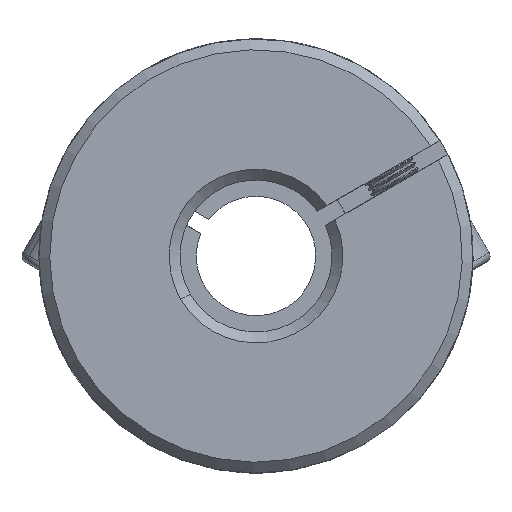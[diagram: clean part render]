
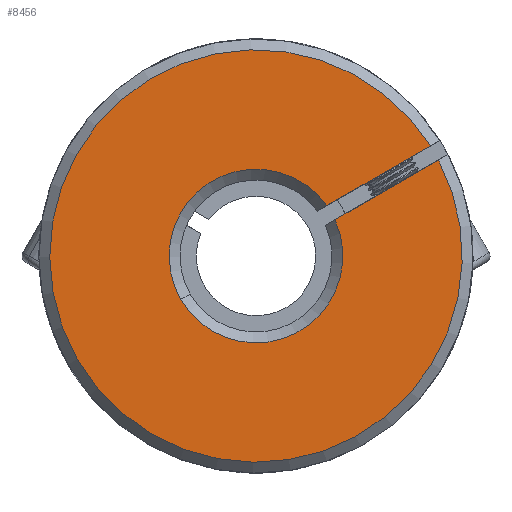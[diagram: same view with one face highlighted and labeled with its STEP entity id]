
A CAD part, front view. The second image highlights one B-rep face of the part: STEP entity #8456.
In plain terms, the highlighted planar face has unit normal (0, -1, 0).
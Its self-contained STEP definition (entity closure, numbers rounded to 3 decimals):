
#648 = CARTESIAN_POINT ( 'NONE',  ( -8.374, -31.239, 35.998 ) ) ;
#720 = EDGE_CURVE ( 'NONE', #12238, #4456, #13005, .T. ) ;
#1067 = CARTESIAN_POINT ( 'NONE',  ( -1.447, -31.239, 40. ) ) ;
#1151 = ORIENTED_EDGE ( 'NONE', *, *, #11982, .T. ) ;
#1620 = DIRECTION ( 'NONE',  ( 0.866, 0., 0.5 ) ) ;
#1926 = AXIS2_PLACEMENT_3D ( 'NONE', #8515, #9511, #2065 ) ;
#2065 = DIRECTION ( 'NONE',  ( 0.5, 0., -0.866 ) ) ;
#2352 = VERTEX_POINT ( 'NONE', #10634 ) ;
#2353 = ORIENTED_EDGE ( 'NONE', *, *, #12939, .F. ) ;
#2458 = EDGE_CURVE ( 'NONE', #10676, #12238, #7574, .T. ) ;
#3053 = DIRECTION ( 'NONE',  ( 0., 1., 0. ) ) ;
#4014 = CARTESIAN_POINT ( 'NONE',  ( 5.825, -31.239, 43.335 ) ) ;
#4293 = CARTESIAN_POINT ( 'NONE',  ( 15.367, -31.239, 48.848 ) ) ;
#4456 = VERTEX_POINT ( 'NONE', #4562 ) ;
#4562 = CARTESIAN_POINT ( 'NONE',  ( 5.074, -31.239, 44.634 ) ) ;
#4729 = CARTESIAN_POINT ( 'NONE',  ( 4.954, -31.239, 42.832 ) ) ;
#4896 = ORIENTED_EDGE ( 'NONE', *, *, #720, .T. ) ;
#5256 = DIRECTION ( 'NONE',  ( 0., -1., 0. ) ) ;
#5328 = CARTESIAN_POINT ( 'NONE',  ( -1.447, -31.239, 40. ) ) ;
#5469 = DIRECTION ( 'NONE',  ( 0.5, 0., -0.866 ) ) ;
#6811 = VECTOR ( 'NONE', #9083, 1000. ) ;
#7111 = FACE_OUTER_BOUND ( 'NONE', #8476, .T. ) ;
#7220 = CIRCLE ( 'NONE', #9389, 19. ) ;
#7406 = ORIENTED_EDGE ( 'NONE', *, *, #2458, .T. ) ;
#7574 = CIRCLE ( 'NONE', #11096, 8. ) ;
#8006 = EDGE_CURVE ( 'NONE', #10676, #9234, #13019, .T. ) ;
#8344 = ORIENTED_EDGE ( 'NONE', *, *, #8006, .F. ) ;
#8377 = PLANE ( 'NONE',  #1926 ) ;
#8456 = ADVANCED_FACE ( 'NONE', ( #7111 ), #8377, .F. ) ;
#8460 = DIRECTION ( 'NONE',  ( 0.5, 0., -0.866 ) ) ;
#8476 = EDGE_LOOP ( 'NONE', ( #8344, #7406, #4896, #2353, #1151 ) ) ;
#8515 = CARTESIAN_POINT ( 'NONE',  ( 52.98, -31.239, 45.743 ) ) ;
#9083 = DIRECTION ( 'NONE',  ( -0.866, 0., -0.5 ) ) ;
#9234 = VERTEX_POINT ( 'NONE', #4293 ) ;
#9338 = LINE ( 'NONE', #12390, #6811 ) ;
#9389 = AXIS2_PLACEMENT_3D ( 'NONE', #11749, #5256, #10702 ) ;
#9511 = DIRECTION ( 'NONE',  ( 0., 1., 0. ) ) ;
#10634 = CARTESIAN_POINT ( 'NONE',  ( 14.616, -31.239, 50.147 ) ) ;
#10676 = VERTEX_POINT ( 'NONE', #4014 ) ;
#10702 = DIRECTION ( 'NONE',  ( 0.5, 0., -0.866 ) ) ;
#11096 = AXIS2_PLACEMENT_3D ( 'NONE', #5328, #11900, #5469 ) ;
#11749 = CARTESIAN_POINT ( 'NONE',  ( -1.447, -31.239, 40. ) ) ;
#11900 = DIRECTION ( 'NONE',  ( 0., 1., 0. ) ) ;
#11982 = EDGE_CURVE ( 'NONE', #2352, #9234, #7220, .T. ) ;
#12159 = AXIS2_PLACEMENT_3D ( 'NONE', #1067, #3053, #8460 ) ;
#12212 = VECTOR ( 'NONE', #1620, 1000. ) ;
#12238 = VERTEX_POINT ( 'NONE', #648 ) ;
#12390 = CARTESIAN_POINT ( 'NONE',  ( 4.204, -31.239, 44.131 ) ) ;
#12939 = EDGE_CURVE ( 'NONE', #2352, #4456, #9338, .T. ) ;
#13005 = CIRCLE ( 'NONE', #12159, 8. ) ;
#13019 = LINE ( 'NONE', #4729, #12212 ) ;
